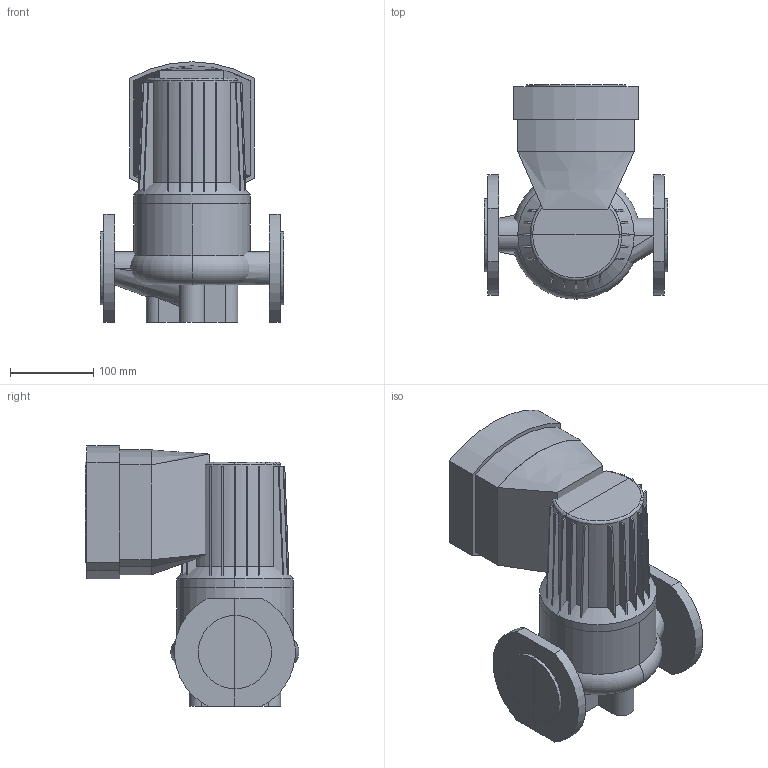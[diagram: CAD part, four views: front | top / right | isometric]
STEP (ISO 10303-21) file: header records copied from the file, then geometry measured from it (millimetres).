
FILE_DESCRIPTION(/* description */ (''),/* implementation_level */ '2;1');
FILE_NAME(/* name */ 'C:\Users\a.zyazeva\Desktop\Wellmix\TG TD WRE WRS\WRE 40-100 F.stp',/* time_stamp */ '2024-08-28T00:12:32+03:00',/* author */ ('a.zyazeva'),/* organization */ (''),/* preprocessor_version */ 'ST-DEVELOPER v18.1',/* originating_system */ 'Autodesk Inventor 2022',/* authorisation */ '');
FILE_SCHEMA (('AUTOMOTIVE_DESIGN { 1 0 10303 214 3 1 1 }'));
Length unit declared in the file: millimetre
Products named in the file (1): WRE 40-100 F
Bounding box: 220 x 256.96 x 313 mm (x, y, z)
Volume: 6993516.9 mm3; surface area: 618725.2 mm2
Topology: 10 solids, 10 shells, 265 faces, 690 edges, 451 vertices
Faces by surface type: plane 212, cylinder 24, bspline 23, torus 4, cone 2
Entity records: 9187 total; most frequent: CARTESIAN_POINT 2829, ORIENTED_EDGE 1380, DIRECTION 1168, EDGE_CURVE 690, LINE 502, VECTOR 502, VERTEX_POINT 451, AXIS2_PLACEMENT_3D 333
